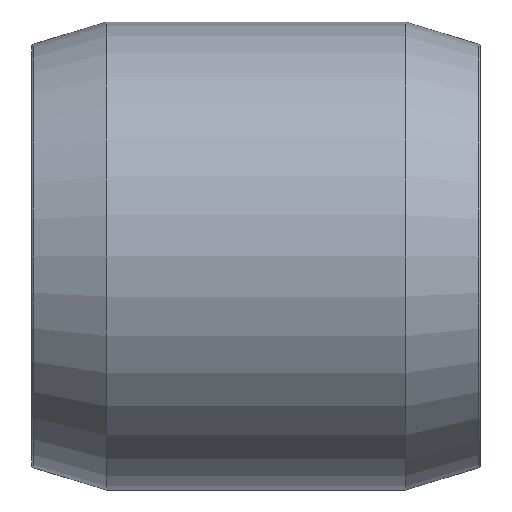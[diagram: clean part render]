
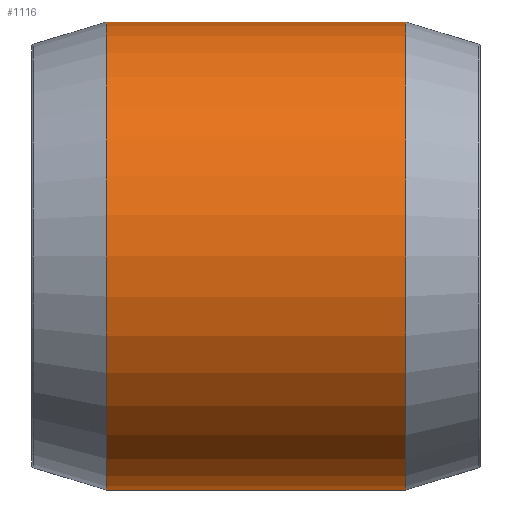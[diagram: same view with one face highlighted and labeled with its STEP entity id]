
A CAD part, front view. The second image highlights one B-rep face of the part: STEP entity #1116.
In plain terms, the highlighted cylindrical face has radius 86 mm (diameter 172 mm), a partial arc.
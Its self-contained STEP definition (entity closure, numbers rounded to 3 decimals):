
#96 = VERTEX_POINT ( 'NONE', #584 ) ;
#163 = VERTEX_POINT ( 'NONE', #2209 ) ;
#227 = VERTEX_POINT ( 'NONE', #1458 ) ;
#245 = DIRECTION ( 'NONE',  ( 0., 0., -1. ) ) ;
#249 = DIRECTION ( 'NONE',  ( 1., 0., 0. ) ) ;
#254 = CARTESIAN_POINT ( 'NONE',  ( -137.5, 0., 0. ) ) ;
#485 = AXIS2_PLACEMENT_3D ( 'NONE', #1138, #939, #1223 ) ;
#584 = CARTESIAN_POINT ( 'NONE',  ( -137.5, 0., 86. ) ) ;
#771 = VECTOR ( 'NONE', #925, 1000. ) ;
#794 = VECTOR ( 'NONE', #2403, 1000. ) ;
#877 = ORIENTED_EDGE ( 'NONE', *, *, #2033, .T. ) ;
#925 = DIRECTION ( 'NONE',  ( 1., 0., 0. ) ) ;
#929 = CARTESIAN_POINT ( 'NONE',  ( 0., 0., 86. ) ) ;
#939 = DIRECTION ( 'NONE',  ( 1., 0., 0. ) ) ;
#988 = DIRECTION ( 'NONE',  ( 0., 0., -1. ) ) ;
#1036 = DIRECTION ( 'NONE',  ( 1., 0., 0. ) ) ;
#1116 = ADVANCED_FACE ( 'NONE', ( #1508 ), #2031, .T. ) ;
#1138 = CARTESIAN_POINT ( 'NONE',  ( 0., 0., 0. ) ) ;
#1223 = DIRECTION ( 'NONE',  ( 0., 0., -1. ) ) ;
#1290 = ORIENTED_EDGE ( 'NONE', *, *, #1399, .F. ) ;
#1343 = LINE ( 'NONE', #929, #771 ) ;
#1359 = EDGE_CURVE ( 'NONE', #96, #163, #1343, .T. ) ;
#1383 = LINE ( 'NONE', #2417, #794 ) ;
#1399 = EDGE_CURVE ( 'NONE', #163, #2211, #2027, .T. ) ;
#1458 = CARTESIAN_POINT ( 'NONE',  ( -137.5, 0., -86. ) ) ;
#1508 = FACE_OUTER_BOUND ( 'NONE', #2332, .T. ) ;
#1607 = CIRCLE ( 'NONE', #1671, 86. ) ;
#1671 = AXIS2_PLACEMENT_3D ( 'NONE', #254, #249, #245 ) ;
#1724 = CARTESIAN_POINT ( 'NONE',  ( -27.5, 0., -86. ) ) ;
#1826 = EDGE_CURVE ( 'NONE', #227, #2211, #1383, .T. ) ;
#1934 = ORIENTED_EDGE ( 'NONE', *, *, #1826, .T. ) ;
#2017 = AXIS2_PLACEMENT_3D ( 'NONE', #2240, #1036, #988 ) ;
#2027 = CIRCLE ( 'NONE', #2017, 86. ) ;
#2031 = CYLINDRICAL_SURFACE ( 'NONE', #485, 86. ) ;
#2033 = EDGE_CURVE ( 'NONE', #96, #227, #1607, .T. ) ;
#2209 = CARTESIAN_POINT ( 'NONE',  ( -27.5, 0., 86. ) ) ;
#2211 = VERTEX_POINT ( 'NONE', #1724 ) ;
#2240 = CARTESIAN_POINT ( 'NONE',  ( -27.5, 0., 0. ) ) ;
#2309 = ORIENTED_EDGE ( 'NONE', *, *, #1359, .F. ) ;
#2332 = EDGE_LOOP ( 'NONE', ( #2309, #877, #1934, #1290 ) ) ;
#2403 = DIRECTION ( 'NONE',  ( 1., 0., 0. ) ) ;
#2417 = CARTESIAN_POINT ( 'NONE',  ( 0., 0., -86. ) ) ;
